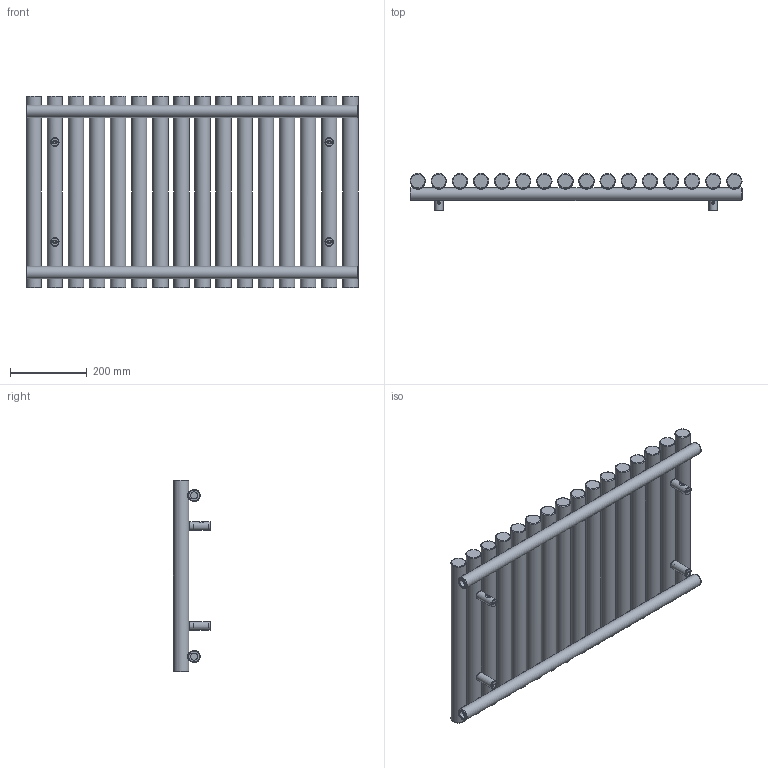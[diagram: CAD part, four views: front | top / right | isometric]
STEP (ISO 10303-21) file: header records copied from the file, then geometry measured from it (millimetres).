
FILE_DESCRIPTION(/* description */ (''),/* implementation_level */ '2;1');
FILE_NAME(/* name */ 'Z:\R\G\P\RGP116 - Grzejniki Geyser\Work\Inventor\Circolo (Rolo V, Rolo H)\ROLO-ROOM\Marketing\Zaokrąglone\WGROR050086-LP-CK-(Z).stp',/* time_stamp */ '2024-01-19T14:18:43+01:00',/* author */ ('NowAd'),/* organization */ (''),/* preprocessor_version */ 'ST-DEVELOPER v17.2',/* originating_system */ 'Autodesk Inventor 2019',/* authorisation */ '');
FILE_SCHEMA (('AUTOMOTIVE_DESIGN { 1 0 10303 214 3 1 1 }'));
Length unit declared in the file: millimetre
Products named in the file (3): WGROR050086-LP-CK-(Z); PGROR050086-LP-CK-(Z); CK-V-fi40 marketing
Assembly tree (5 placements, depth 2):
  WGROR050086-LP-CK-(Z)
    PGROR050086-LP-CK-(Z)
    CK-V-fi40 marketing  x4
Bounding box: 865 x 96.5 x 500 mm (x, y, z)
Volume: 11474743.3 mm3; surface area: 1233330.9 mm2
Topology: 5 solids, 5 shells, 398 faces, 974 edges, 652 vertices
Faces by surface type: plane 156, cylinder 86, torus 64, cone 60, bspline 32
Full cylindrical faces by diameter (mm): 4.134 x4, 4.48 x4, 6.4 x4, 10 x4, 12 x4, 15.834 x4, 16 x4, 18.631 x4, 22 x4, 32 x2, 40 x16
Entity records: 12228 total; most frequent: CARTESIAN_POINT 7201, DIRECTION 1043, ORIENTED_EDGE 986, EDGE_CURVE 493, AXIS2_PLACEMENT_3D 478, VERTEX_POINT 334, EDGE_LOOP 299, CIRCLE 279
